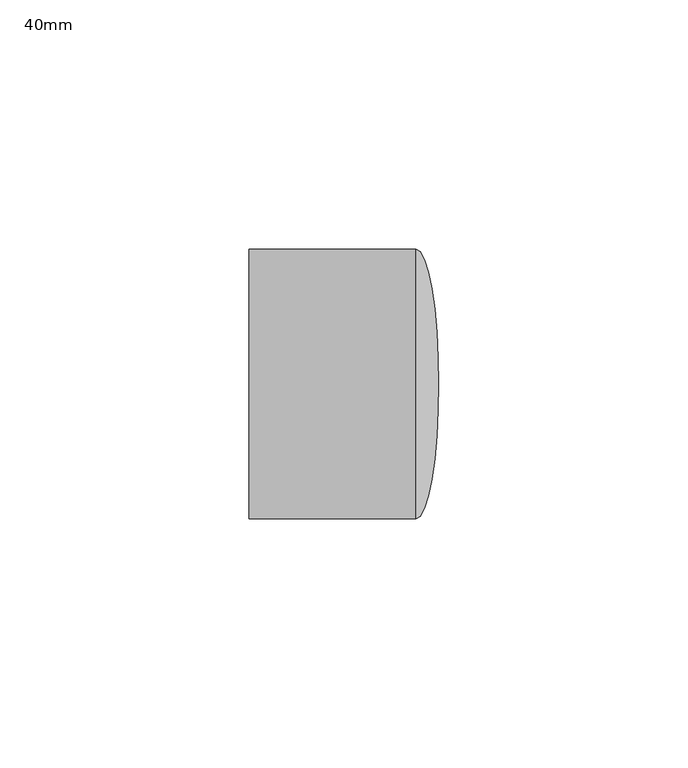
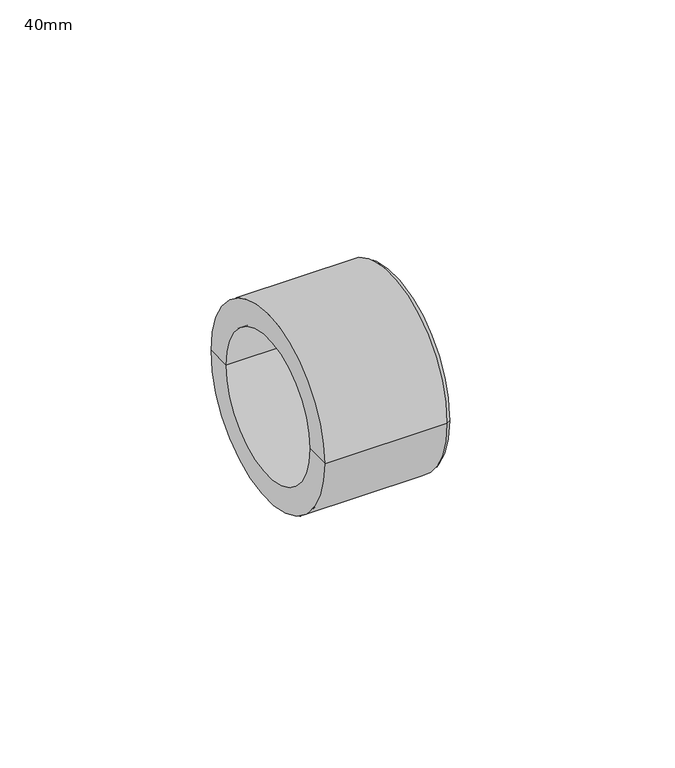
"""IFC4 building model written with IfcOpenShell, lengths in millimetres: pipe fitting geometry, PipeFitting_HTA_CPVC_Caps : 40mm."""

import ifcopenshell
import ifcopenshell.guid

model = None  # the IFC model being written
_history = None  # IfcOwnerHistory: only IFC2X3 demands one
_inside = {}  # id of a spatial element -> (the spatial element, [elements in it])
_under = {}  # id of a project, library or spatial element -> (it, [spatial elements below it])
_declared = {}  # id of a project -> (the project, [libraries it declares])
_typed = {}  # id of a type object -> (the type object, [elements of that type])
_made_of = {}  # id of a material, layer set ... -> (it, [elements and type objects made of it])


def new_model(schema):
    """Start an empty IFC model of exactly this schema.

    Asked for "IFC4X3", IfcOpenShell would pick the latest addendum, in which some entities
    have other attributes; the version numbers below select the first issue.
    IFC2X3 requires an IfcOwnerHistory on every rooted entity: one is made here for all.
    """
    global model, _history
    if schema == "IFC4X3":
        model = ifcopenshell.file(schema_version=(4, 3, 0, 0))
    else:
        model = ifcopenshell.file(schema=schema)
    _inside.clear()
    _under.clear()
    _declared.clear()
    _typed.clear()
    _made_of.clear()
    _history = None
    if model.schema == "IFC2X3":
        org = make("IfcOrganization", Name="unknown")
        user = make(
            "IfcPersonAndOrganization",
            ThePerson=make("IfcPerson", FamilyName="unknown"),
            TheOrganization=org,
        )
        app = make(
            "IfcApplication",
            ApplicationDeveloper=org,
            Version="unknown",
            ApplicationFullName="unknown",
            ApplicationIdentifier="unknown",
        )
        _history = make(
            "IfcOwnerHistory",
            OwningUser=user,
            OwningApplication=app,
            ChangeAction="ADDED",
            CreationDate=0,
        )
    return model


def make(cls, **values):
    """One entity of the class cls with the attributes given. An attribute that is None is left unset."""
    return model.create_entity(
        cls, **{name: value for name, value in values.items() if value is not None}
    )


def rooted(cls, **values):
    """An entity with a GlobalId (a new one), such as an element, a storey or a relation."""
    return make(cls, GlobalId=ifcopenshell.guid.new(), OwnerHistory=_history, **values)


def si_unit(unit_type, name, prefix=None):
    """IfcSIUnit, for example si_unit("LENGTHUNIT", "METRE", prefix="MILLI")."""
    return make("IfcSIUnit", UnitType=unit_type, Prefix=prefix, Name=name)


def assignment(units):
    """IfcUnitAssignment: the units of a project."""
    return None if units is None else make("IfcUnitAssignment", Units=units)


def point(xyz):
    """IfcCartesianPoint."""
    return None if xyz is None else make("IfcCartesianPoint", Coordinates=xyz)


def direction(xyz):
    """IfcDirection."""
    return None if xyz is None else make("IfcDirection", DirectionRatios=xyz)


def frame(location, z_axis=None, x_axis=None):
    """IfcAxis2Placement3D, a coordinate frame: its origin and axes. An axis left out is left unset."""
    return make(
        "IfcAxis2Placement3D",
        Location=point(location),
        Axis=direction(z_axis),
        RefDirection=direction(x_axis),
    )


def origin():
    """The frame at (0, 0, 0) with its axes left unset."""
    return frame((0.0, 0.0, 0.0))


def place(relative_to, where):
    """IfcLocalPlacement: puts the frame where relative to a parent placement (None: the world)."""
    return make(
        "IfcLocalPlacement", PlacementRelTo=relative_to, RelativePlacement=where
    )


def context(
    kind, dimensions, precision=None, world=None, true_north=None, identifier=None
):
    """IfcGeometricRepresentationContext, for example the 3D "Model" context."""
    return make(
        "IfcGeometricRepresentationContext",
        ContextIdentifier=identifier,
        ContextType=kind,
        CoordinateSpaceDimension=dimensions,
        Precision=precision,
        WorldCoordinateSystem=world,
        TrueNorth=true_north,
    )


def project(units=None, contexts=None):
    """IfcProject with its units and contexts."""
    return rooted(
        "IfcProject",
        Name="project",
        RepresentationContexts=contexts,
        UnitsInContext=assignment(units),
    )


def spatial(cls, under=None, at=None, **own):
    """A site, building, storey or space (cls), placed at a placement, below another one or the project."""
    s = rooted(cls, ObjectPlacement=at, **own)
    if under is not None:
        _under.setdefault(under.id(), (under, []))[1].append(s)
    return s


def polyline(points):
    """IfcPolyline through the points."""
    return make("IfcPolyline", Points=[point(p) for p in points])


def circle_curve(where, radius):
    """IfcCircle in the frame where."""
    return make("IfcCircle", Position=where, Radius=radius)


def ellipse_curve(where, semi_axis1, semi_axis2):
    """IfcEllipse in the frame where."""
    return make(
        "IfcEllipse", Position=where, SemiAxis1=semi_axis1, SemiAxis2=semi_axis2
    )


def trimmed(basis, trim1, trim2, sense, master):
    """IfcTrimmedCurve: the piece of a basis curve between two trims."""
    return make(
        "IfcTrimmedCurve",
        BasisCurve=basis,
        Trim1=trim1,
        Trim2=trim2,
        SenseAgreement=sense,
        MasterRepresentation=master,
    )


def shape(context_of_items, identifier, shape_type, items):
    """IfcShapeRepresentation: the items that make up one representation, for example the "Body"."""
    return make(
        "IfcShapeRepresentation",
        ContextOfItems=context_of_items,
        RepresentationIdentifier=identifier,
        RepresentationType=shape_type,
        Items=items,
    )


def source(mapping_origin, context_of_items, identifier, shape_type, items):
    """IfcRepresentationMap: a shape defined once, which mapped items show again and again."""
    return make(
        "IfcRepresentationMap",
        MappingOrigin=mapping_origin,
        MappedRepresentation=shape(context_of_items, identifier, shape_type, items),
    )


def transform(
    local_origin,
    x_axis=None,
    y_axis=None,
    z_axis=None,
    scale=None,
    scale2=None,
    scale3=None,
    uniform=True,
):
    """IfcCartesianTransformationOperator3D, or its non-uniform kind. x_axis, y_axis, z_axis: its Axis1, 2, 3."""
    if uniform:
        return make(
            "IfcCartesianTransformationOperator3D",
            Axis1=direction(x_axis),
            Axis2=direction(y_axis),
            LocalOrigin=point(local_origin),
            Scale=scale,
            Axis3=direction(z_axis),
        )
    return make(
        "IfcCartesianTransformationOperator3DnonUniform",
        Axis1=direction(x_axis),
        Axis2=direction(y_axis),
        LocalOrigin=point(local_origin),
        Scale=scale,
        Axis3=direction(z_axis),
        Scale2=scale2,
        Scale3=scale3,
    )


def mapped(mapping_source, mapping_target):
    """IfcMappedItem: shows the shape of a source again, moved by a transform."""
    return make(
        "IfcMappedItem", MappingSource=mapping_source, MappingTarget=mapping_target
    )


def made_of(thing, what):
    """Note that an element or type object is made of a material, layer set ...; save() writes the relation."""
    if what is not None:
        _made_of.setdefault(what.id(), (what, []))[1].append(thing)
    return thing


def element(
    cls,
    number,
    at=None,
    inside=None,
    cuts=None,
    type_object=None,
    material=None,
    context=None,
    identifier="Body",
    shape_type=None,
    held_by="IfcProductDefinitionShape",
    body=None,
    shapes=None,
    **own,
):
    """One element of the class cls, such as IfcWall. Its Tag is "e" and its number.

    at: its placement. inside: the storey or other place that contains it. cuts: it is an
    opening in that element (IfcRelVoidsElement). A single representation is given by context,
    identifier, shape_type and body (its items); several are given by shapes. held_by: the class
    of the entity that holds the representations. save() writes the other relations.
    """
    e = rooted(cls, Tag="e%d" % number, ObjectPlacement=at, **own)
    if body is not None:
        shapes = [shape(context, identifier, shape_type, body)]
    if shapes is not None:
        e.Representation = make(held_by, Representations=shapes)
    if inside is not None:
        _inside.setdefault(inside.id(), (inside, []))[1].append(e)
    if cuts is not None:
        rooted(
            "IfcRelVoidsElement", RelatingBuildingElement=cuts, RelatedOpeningElement=e
        )
    if type_object is not None:
        _typed.setdefault(type_object.id(), (type_object, []))[1].append(e)
    return made_of(e, material)


def aggregate(whole, parts):
    """IfcRelAggregates: a whole, such as a stair, and the parts it consists of."""
    return rooted("IfcRelAggregates", RelatingObject=whole, RelatedObjects=parts)


def save(model, path):
    """Write the relations noted so far, then the file.

    IfcRelAggregates (storeys below a building ...), IfcRelContainedInSpatialStructure (elements
    in a storey), IfcRelDefinesByType, IfcRelAssociatesMaterial and IfcRelDeclares: one each for
    every whole, place, type object, material and project.
    """
    for whole, parts in _under.values():
        aggregate(whole, parts)
    for where, things in _inside.values():
        rooted(
            "IfcRelContainedInSpatialStructure",
            RelatedElements=things,
            RelatingStructure=where,
        )
    for kind, things in _typed.values():
        rooted("IfcRelDefinesByType", RelatedObjects=things, RelatingType=kind)
    for what, things in _made_of.values():
        rooted("IfcRelAssociatesMaterial", RelatedObjects=things, RelatingMaterial=what)
    for by, libraries in _declared.values():
        rooted("IfcRelDeclares", RelatingContext=by, RelatedDefinitions=libraries)
    model.write(path)


def plane_surface(at):
    """IfcPlane: the flat surface through the origin of the frame at, square to its z axis."""
    return make("IfcPlane", Position=at)


def cylinder_surface(at, radius):
    """IfcCylindricalSurface: all points at the distance radius from the z axis of the frame at."""
    return make("IfcCylindricalSurface", Position=at, Radius=radius)


def revolved_surface(curve, axis_point, axis_direction):
    """IfcSurfaceOfRevolution: the curve turned about the line through axis_point along axis_direction."""
    return make(
        "IfcSurfaceOfRevolution",
        SweptCurve=make("IfcArbitraryOpenProfileDef", ProfileType="CURVE", Curve=curve),
        AxisPosition=make("IfcAxis1Placement", Location=point(axis_point), Axis=direction(axis_direction)),
    )


def advanced_brep(points, edges, surfaces, faces):
    """IfcAdvancedBrep: a solid bounded by faces that lie on surfaces and meet in shared edges.

    An edge is (start, end): straight between two places in points (the first is 0);
    or (start, end, curve); or (start, end, curve, False) where it runs against its curve.
    A face is (place in surfaces, loops), or (place, loops, False) where it looks against
    its surface's normal. A loop lists edges by number (the first is 1), with a minus sign
    where the edge is run from its end to its start. The first loop is the outer one.
    """
    corners = [point(p) for p in points]
    vertices = [make("IfcVertexPoint", VertexGeometry=c) for c in corners]
    made = []
    for start, end, *more in edges:
        made.append(
            make(
                "IfcEdgeCurve",
                EdgeStart=vertices[start],
                EdgeEnd=vertices[end],
                EdgeGeometry=more[0] if more else make("IfcPolyline", Points=[corners[start], corners[end]]),
                SameSense=more[1] if len(more) > 1 else True,
            )
        )
    hull = []
    for where, loops, *sense in faces:
        bounds = []
        for j, loop in enumerate(loops):
            ring = [make("IfcOrientedEdge", EdgeElement=made[abs(k) - 1], Orientation=k > 0) for k in loop]
            bounds.append(
                make(
                    "IfcFaceOuterBound" if j == 0 else "IfcFaceBound",
                    Bound=make("IfcEdgeLoop", EdgeList=ring),
                    Orientation=True,
                )
            )
        hull.append(make("IfcAdvancedFace", Bounds=bounds, FaceSurface=surfaces[where], SameSense=sense[0] if sense else True))
    return make("IfcAdvancedBrep", Outer=make("IfcClosedShell", CfsFaces=hull))


def pipe_fitting_40mm_d784b855(model_context):
    return source(origin(), model_context, "Body", "AdvancedBrep", [
        advanced_brep(
        [(14.5, -27.0, 0.0), (14.5, 27.0, 0.0), (19.0, 0.0, 0.0), (-19.0, -27.0, 0.0), (-19.0, 27.0, 0.0), (-19.0, -20.0, 0.0), (-19.0, 20.0, 0.0), (-0.4296875, -20.0, 0.0), (-0.4296875, 20.0, 0.0)],
        [
            (0, 1, circle_curve(frame((14.5, 0.0, 0.0), z_axis=(1.0, 0.0, 0.0), x_axis=(0.0, 1.0, 0.0)), 27.0)),
            (1, 2, ellipse_curve(frame((14.5, 0.0, 0.0), z_axis=(0.0, 0.0, -1.0), x_axis=(0.0, 1.0, 0.0)), 27.0, 4.5)),
            (2, 0, ellipse_curve(frame((14.5, 0.0, 0.0), z_axis=(0.0, 0.0, -1.0), x_axis=(0.0, -1.0, 0.0)), 27.0, 4.5)),
            (1, 0, circle_curve(frame((14.5, 0.0, 0.0), z_axis=(1.0, 0.0, 0.0), x_axis=(0.0, 1.0, 0.0)), 27.0)),
            (0, 3),
            (3, 4, circle_curve(frame((-19.0, 0.0, 0.0), z_axis=(1.0, 0.0, 0.0), x_axis=(0.0, 1.0, 0.0)), 27.0)),
            (4, 1),
            (4, 3, circle_curve(frame((-19.0, 0.0, 0.0), z_axis=(1.0, 0.0, 0.0), x_axis=(0.0, 1.0, 0.0)), 27.0)),
            (3, 5),
            (5, 6, circle_curve(frame((-19.0, 0.0, 0.0), z_axis=(1.0, 0.0, 0.0), x_axis=(0.0, 1.0, 0.0)), 20.0)),
            (6, 4),
            (6, 5, circle_curve(frame((-19.0, 0.0, 0.0), z_axis=(1.0, 0.0, 0.0), x_axis=(0.0, 1.0, 0.0)), 20.0)),
            (7, 8, circle_curve(frame((-0.4296875, 0.0, 0.0), z_axis=(-1.0, 0.0, 0.0), x_axis=(0.0, 1.0, 0.0)), 20.0)),
            (8, 7, circle_curve(frame((-0.4296875, 0.0, 0.0), z_axis=(-1.0, 0.0, 0.0), x_axis=(0.0, 1.0, 0.0)), 20.0)),
            (8, 6),
            (5, 7),
        ],
        [
            revolved_surface(trimmed(ellipse_curve(frame((14.5, 0.0, 0.0), z_axis=(0.0, 0.0, 1.0), x_axis=(0.0, 1.0, 0.0)), 27.0, 4.5), [point((19.0, 0.0, 0.0))], [point((14.5, 27.0, 0.0))], True, "CARTESIAN"), (-380.0, 0.0, 0.0), (-1.0, 0.0, 0.0)),
            cylinder_surface(frame((-380.0, 0.0, 0.0), z_axis=(-1.0, 0.0, 0.0), x_axis=(0.0, 1.0, 0.0)), 27.0),
            plane_surface(frame((-19.0, 0.0, 0.0), z_axis=(-1.0, 0.0, 0.0), x_axis=(0.0, 1.0, 0.0))),
            plane_surface(frame((-0.4296875, 20.0, 0.0), z_axis=(-1.0, 0.0, 0.0), x_axis=(0.0, 0.0, 1.0))),
            revolved_surface(polyline([(-0.4296875, 20.0, 0.0), (-19.0, 20.0, 0.0)]), (-19.0, 0.0, 0.0), (1.0, 0.0, 0.0)),
        ],
        [
            (0, [[1, 2, 3]]),
            (0, [[-2, 4, -3]]),
            (1, [[-1, 5, 6, 7]]),
            (1, [[-4, -7, 8, -5]]),
            (2, [[-6, 9, 10, 11]]),
            (2, [[-8, -11, 12, -9]]),
            (3, [[13, 14]]),
            (4, [[-14, 15, -10, 16]]),
            (4, [[-13, -16, -12, -15]]),
        ],
    ),
    ])


if __name__ == "__main__":
    model = new_model("IFC4")
    model_context = context("Model", 3, world=origin())
    ifc_project = project(units=[si_unit("LENGTHUNIT", "METRE", prefix="MILLI")], contexts=[model_context])
    site = spatial("IfcSite", under=ifc_project)
    building = spatial("IfcBuilding", under=site)
    placement = place(None, origin())
    pipe_fitting_40mm_shape = pipe_fitting_40mm_d784b855(model_context)
    element("IfcPipeFitting", 1, ObjectType="PipeFitting_HTA_CPVC_Caps : 40mm", at=placement, inside=building, context=model_context, shape_type="MappedRepresentation", body=[
        mapped(pipe_fitting_40mm_shape, transform((0.0, 0.0, 0.0), x_axis=(1.0, 0.0, 0.0), y_axis=(0.0, 1.0, 0.0), z_axis=(0.0, 0.0, 1.0))),
    ])
    save(model, "model.ifc")
